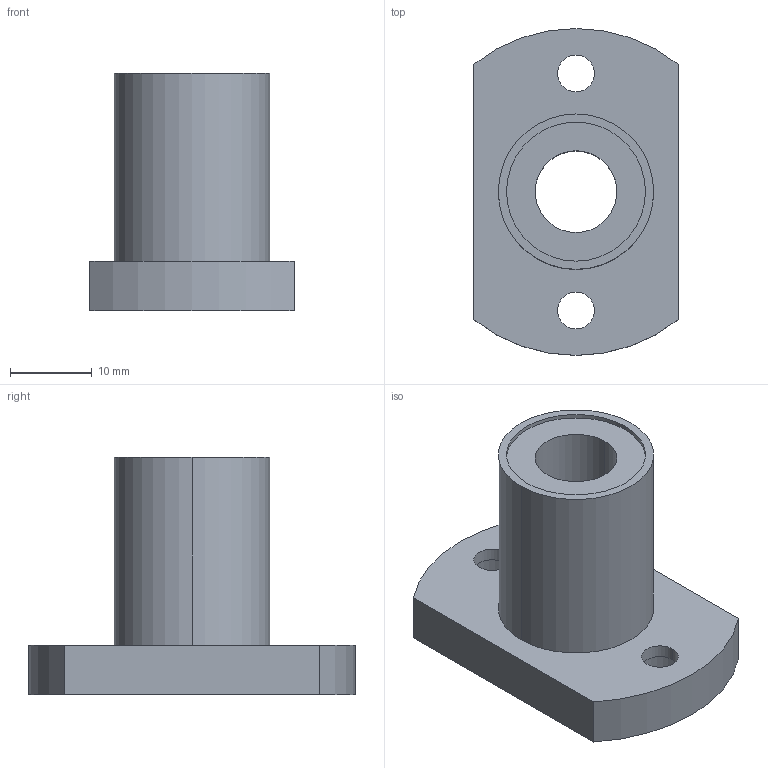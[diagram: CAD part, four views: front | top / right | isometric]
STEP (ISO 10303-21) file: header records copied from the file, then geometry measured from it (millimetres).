
FILE_DESCRIPTION((''),'2;1');
FILE_NAME('C:\Documents and Settings\ｿﾀﾀ蠑ｷ1\ｹﾙﾅﾁ ﾈｭｸ饅\ｺﾎﾇｰﾆﾄﾀﾏ\ﾁｦﾇｰ\LMH__UU\LMH10UU.stp','2005-06-15T10:34:52',('ｿﾀﾀ蠑ｷ1'),(''),'Autodesk Inventor 9','Autodesk Inventor 9','');
FILE_SCHEMA(('AUTOMOTIVE_DESIGN { 1 0 10303 214 1 1 1 1 }'));
Length unit declared in the file: millimetre
Products named in the file (1): LMH__
Bounding box: 25 x 40 x 29 mm (x, y, z)
Volume: 9081.9 mm3; surface area: 4925.3 mm2
Topology: 1 solids, 1 shells, 30 faces, 66 edges, 44 vertices
Faces by surface type: cylinder 12, bspline 10, plane 8
Entity records: 989 total; most frequent: CARTESIAN_POINT 283, DIRECTION 148, ORIENTED_EDGE 132, EDGE_CURVE 66, AXIS2_PLACEMENT_3D 61, VERTEX_POINT 44, EDGE_LOOP 42, CIRCLE 40
